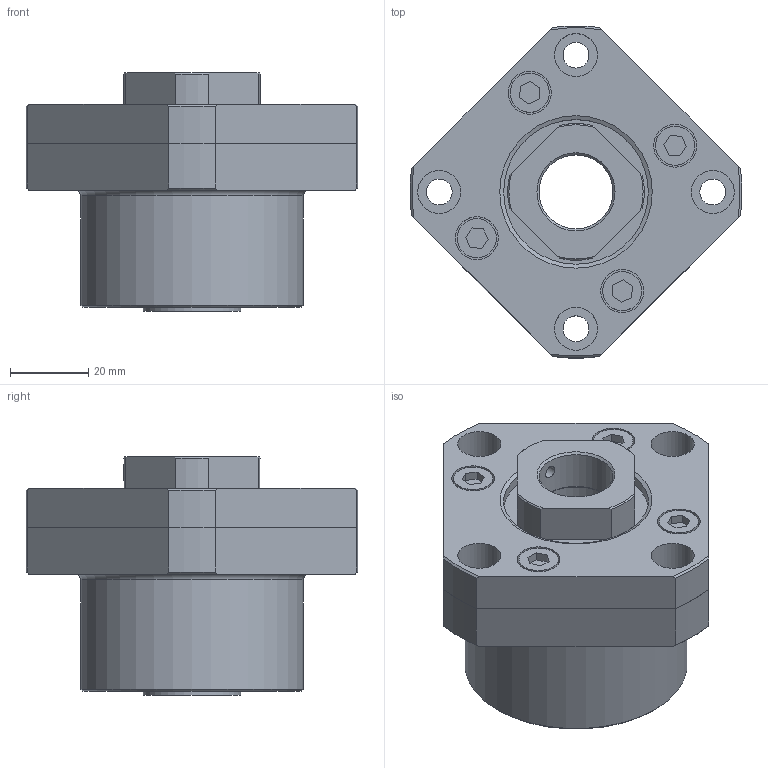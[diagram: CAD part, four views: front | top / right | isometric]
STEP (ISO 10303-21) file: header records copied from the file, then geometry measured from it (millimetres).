
FILE_DESCRIPTION(/* description */ ('STEP AP214'),/* implementation_level */ '2;1');
FILE_NAME(/* name */ 'FK20______CAD_NO_Yes-FS',/* time_stamp */ '2026-09-17T13:36:33+02:00',/* author */ ('License CC BY-ND 4.0'),/* organization */ ('CADENAS'),/* preprocessor_version */ 'ST-DEVELOPER v20',/* originating_system */ 'PARTsolutions',/* authorisation */ ' ');
FILE_SCHEMA (('AUTOMOTIVE_DESIGN {1 0 10303 214 3 1 1}'));
Length unit declared in the file: millimetre
Products named in the file (4): FK20______CAD_NO_Yes-FS; FK 20-FS-1; FK 20collar; RN 20
Assembly tree (4 placements, depth 2):
  FK20______CAD_NO_Yes-FS
    FK 20-FS-1
    FK 20collar  x2
    RN 20
Bounding box: 84.9 x 84.9 x 61 mm (x, y, z)
Volume: 155059.5 mm3; surface area: 32894.6 mm2
Topology: 4 solids, 4 shells, 155 faces, 347 edges, 229 vertices
Faces by surface type: plane 83, cylinder 48, cone 23, torus 1
Full cylindrical faces by diameter (mm): 3.242 x1, 4 x1, 6.6 x4, 10 x4, 11 x8, 18.917 x1, 20 x3, 25 x4, 26 x1, 37 x2, 40.7 x1, 40.74 x1, 57 x1
Entity records: 4219 total; most frequent: CARTESIAN_POINT 798, DIRECTION 694, ORIENTED_EDGE 604, EDGE_CURVE 302, AXIS2_PLACEMENT_3D 270, EDGE_LOOP 232, FACE_BOUND 232, VERTEX_POINT 224
